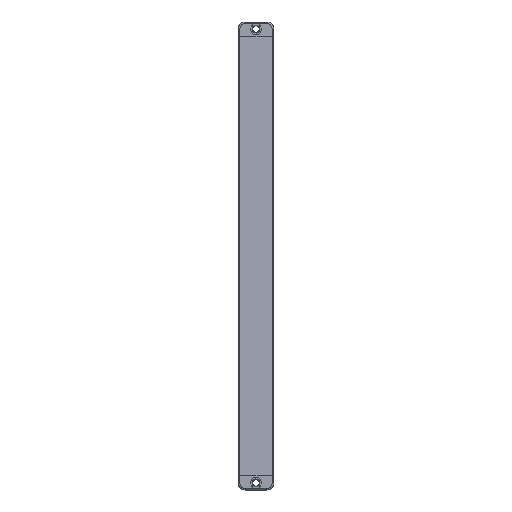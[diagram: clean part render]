
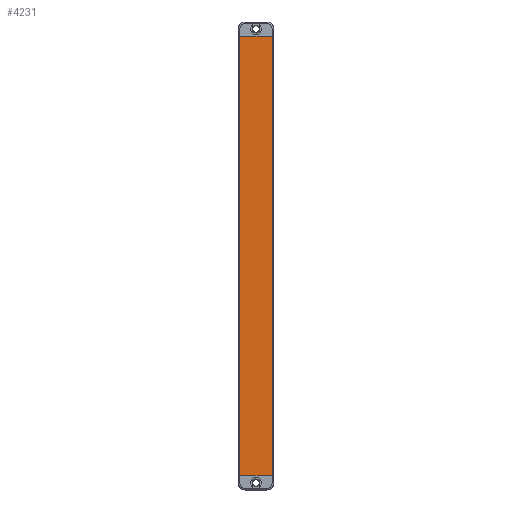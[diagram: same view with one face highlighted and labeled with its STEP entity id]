
A CAD part, front view. The second image highlights one B-rep face of the part: STEP entity #4231.
In plain terms, the highlighted planar face has unit normal (0, -1, 0).
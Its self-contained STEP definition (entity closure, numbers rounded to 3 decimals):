
#52 = DIRECTION ( 'NONE',  ( 1., 0., 0. ) ) ;
#141 = DIRECTION ( 'NONE',  ( 0., 0., -1. ) ) ;
#333 = VERTEX_POINT ( 'NONE', #1449 ) ;
#472 = VECTOR ( 'NONE', #2708, 1000. ) ;
#737 = AXIS2_PLACEMENT_3D ( 'NONE', #1995, #5546, #9072 ) ;
#843 = CARTESIAN_POINT ( 'NONE',  ( -11.5, -6., 0. ) ) ;
#1449 = CARTESIAN_POINT ( 'NONE',  ( 11.5, -6., 0. ) ) ;
#1837 = VERTEX_POINT ( 'NONE', #3480 ) ;
#1909 = EDGE_CURVE ( 'NONE', #3293, #4642, #7134, .T. ) ;
#1995 = CARTESIAN_POINT ( 'NONE',  ( -0.005, -6., 310. ) ) ;
#2169 = EDGE_LOOP ( 'NONE', ( #4389, #2443, #3095, #7184 ) ) ;
#2443 = ORIENTED_EDGE ( 'NONE', *, *, #4746, .F. ) ;
#2708 = DIRECTION ( 'NONE',  ( 0., 0., -1. ) ) ;
#3095 = ORIENTED_EDGE ( 'NONE', *, *, #9446, .F. ) ;
#3293 = VERTEX_POINT ( 'NONE', #6824 ) ;
#3312 = CARTESIAN_POINT ( 'NONE',  ( -11.5, -6., 310. ) ) ;
#3480 = CARTESIAN_POINT ( 'NONE',  ( 11.5, -6., 310. ) ) ;
#4231 = ADVANCED_FACE ( 'NONE', ( #6417 ), #9943, .F. ) ;
#4389 = ORIENTED_EDGE ( 'NONE', *, *, #5564, .T. ) ;
#4450 = LINE ( 'NONE', #7997, #5929 ) ;
#4545 = LINE ( 'NONE', #8088, #5746 ) ;
#4642 = VERTEX_POINT ( 'NONE', #843 ) ;
#4746 = EDGE_CURVE ( 'NONE', #1837, #333, #4545, .T. ) ;
#5546 = DIRECTION ( 'NONE',  ( 0., 1., 0. ) ) ;
#5564 = EDGE_CURVE ( 'NONE', #4642, #333, #4450, .T. ) ;
#5746 = VECTOR ( 'NONE', #141, 1000. ) ;
#5929 = VECTOR ( 'NONE', #52, 1000. ) ;
#6417 = FACE_OUTER_BOUND ( 'NONE', #2169, .T. ) ;
#6824 = CARTESIAN_POINT ( 'NONE',  ( -11.5, -6., 310. ) ) ;
#6851 = DIRECTION ( 'NONE',  ( 1., 0., 0. ) ) ;
#7134 = LINE ( 'NONE', #10665, #472 ) ;
#7184 = ORIENTED_EDGE ( 'NONE', *, *, #1909, .T. ) ;
#7997 = CARTESIAN_POINT ( 'NONE',  ( -0.005, -6., 0. ) ) ;
#8088 = CARTESIAN_POINT ( 'NONE',  ( 11.5, -6., 310. ) ) ;
#9072 = DIRECTION ( 'NONE',  ( 0., 0., 1. ) ) ;
#9446 = EDGE_CURVE ( 'NONE', #3293, #1837, #11262, .T. ) ;
#9943 = PLANE ( 'NONE',  #737 ) ;
#10408 = VECTOR ( 'NONE', #6851, 1000. ) ;
#10665 = CARTESIAN_POINT ( 'NONE',  ( -11.5, -6., 310. ) ) ;
#11262 = LINE ( 'NONE', #3312, #10408 ) ;
